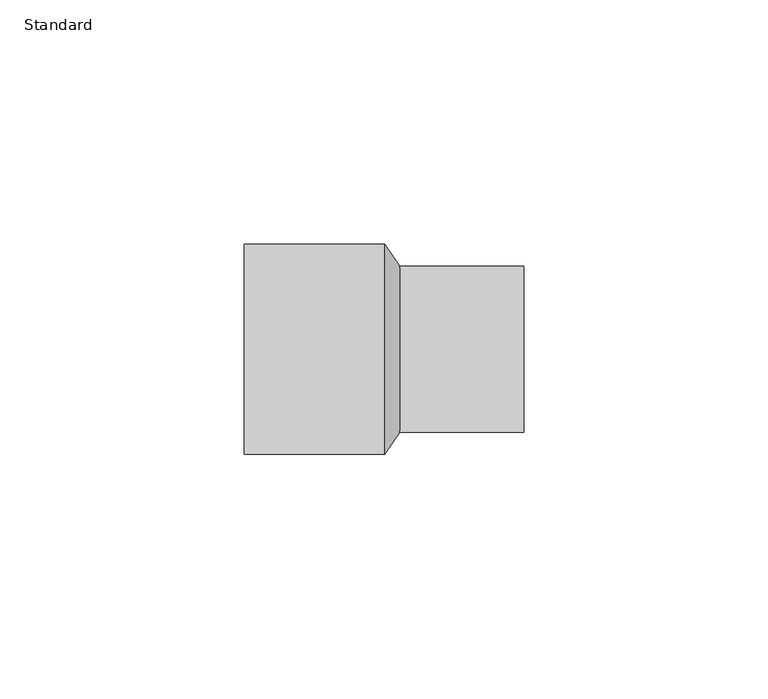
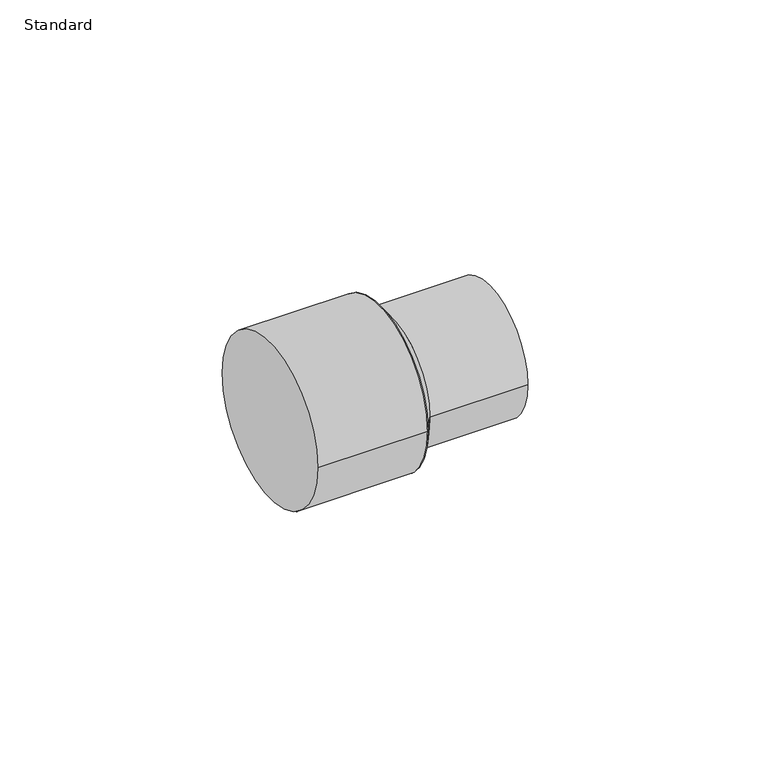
"""IFC4 building model written with IfcOpenShell, lengths in millimetres: pipe fitting geometry, M_Coupling Reducing - CPVC - Sch 40 : Standard."""

from ifc_helpers import new_model, si_unit, point, frame, origin, origin_2d, place, context, project, spatial, polyline, circle_curve, trimmed, segment, composite_curve, outline, extrude, source, transform, mapped, element, save
from ifc_brep_helpers import plane_surface, revolved_surface, advanced_brep


def standard_e5aa6446(model_context):
    return source(origin(), model_context, "Body", "SolidModel", [
        advanced_brep(
        [(31.75, 17.018, 0.0), (31.75, -17.018, 0.0), (28.702, 21.463, 0.0), (28.702, -21.463, 0.0)],
        [
            (0, 1, circle_curve(frame((31.75, 0.0, 0.0), z_axis=(1.0, 4.451994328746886e-12, 0.0), x_axis=(4.452044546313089e-12, -1.0, 0.0)), 17.018)),
            (1, 0, circle_curve(frame((31.75, 0.0, 0.0), z_axis=(1.0, 4.451994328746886e-12, 0.0), x_axis=(-4.452044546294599e-12, 1.0, 0.0)), 17.018)),
            (2, 3, circle_curve(frame((28.702, 0.0, 0.0), z_axis=(-1.0, -4.451994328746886e-12, 0.0), x_axis=(-4.452044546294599e-12, 1.0, 0.0)), 21.463)),
            (3, 2, circle_curve(frame((28.702, 0.0, 0.0), z_axis=(-1.0, -4.451994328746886e-12, 0.0), x_axis=(4.452044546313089e-12, -1.0, 0.0)), 21.463)),
            (2, 0),
            (1, 3),
        ],
        [
            plane_surface(frame((31.75, 0.0, 0.0), z_axis=(1.0, 0.0, 0.0), x_axis=(0.0, 0.0, -1.0))),
            plane_surface(frame((28.702, 0.0, 0.0), z_axis=(-1.0, 0.0, 0.0), x_axis=(0.0, 0.0, -1.0))),
            revolved_surface(polyline([(31.75, 17.01799999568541, 0.0), (28.70199999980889, 21.4630000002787, 0.0)]), (43.4194857, 0.0, 0.0), (-1.0, -4.451994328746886e-12, 0.0)),
            revolved_surface(polyline([(31.75000000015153, -17.01799999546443, 0.0), (28.702, -21.463, 0.0)]), (43.4194857, 0.0, 0.0), (-1.0, -4.451994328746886e-12, 0.0)),
        ],
        [
            (0, [[1, 2]]),
            (1, [[3, 4]]),
            (2, [[5, -2, 6, -3]]),
            (3, [[-6, -1, -5, -4]]),
        ],
    ),
        extrude(outline(composite_curve([segment(trimmed(circle_curve(origin_2d(), 17.018), [point((17.018, 0.0))], [point((-17.018, 0.0))], False, "CARTESIAN"), True, "CONTINUOUS"), segment(trimmed(circle_curve(origin_2d(), 17.018), [point((-17.018, 0.0))], [point((17.018, 0.0))], False, "CARTESIAN"), True, "CONTINUOUS")], self_intersect=False)), frame((31.75, 0.0, 0.0), z_axis=(1.0, 0.0, 0.0), x_axis=(0.0, 1.0, 0.0)), (0.0, 0.0, 1.0), 25.4),
        extrude(outline(composite_curve([segment(trimmed(circle_curve(origin_2d(), 21.463), [point((21.463, 0.0))], [point((-21.463, 0.0))], False, "CARTESIAN"), True, "CONTINUOUS"), segment(trimmed(circle_curve(origin_2d(), 21.463), [point((-21.463, 0.0))], [point((21.463, 0.0))], False, "CARTESIAN"), True, "CONTINUOUS")], self_intersect=False)), frame((0.0, 0.0, 0.0), z_axis=(1.0, 0.0, 0.0), x_axis=(0.0, 1.0, 0.0)), (0.0, 0.0, 1.0), 28.702),
    ])


if __name__ == "__main__":
    model = new_model("IFC4")
    model_context = context("Model", 3, world=origin())
    ifc_project = project(units=[si_unit("LENGTHUNIT", "METRE", prefix="MILLI")], contexts=[model_context])
    site = spatial("IfcSite", under=ifc_project)
    building = spatial("IfcBuilding", under=site)
    placement = place(None, origin())
    standard_shape = standard_e5aa6446(model_context)
    element("IfcPipeFitting", 1, ObjectType="M_Coupling Reducing - CPVC - Sch 40 : Standard", at=placement, inside=building, context=model_context, shape_type="MappedRepresentation", body=[
        mapped(standard_shape, transform((0.0, 0.0, 0.0), x_axis=(1.0, 0.0, 0.0), y_axis=(0.0, 1.0, 0.0), z_axis=(0.0, 0.0, 1.0))),
    ])
    save(model, "model.ifc")
